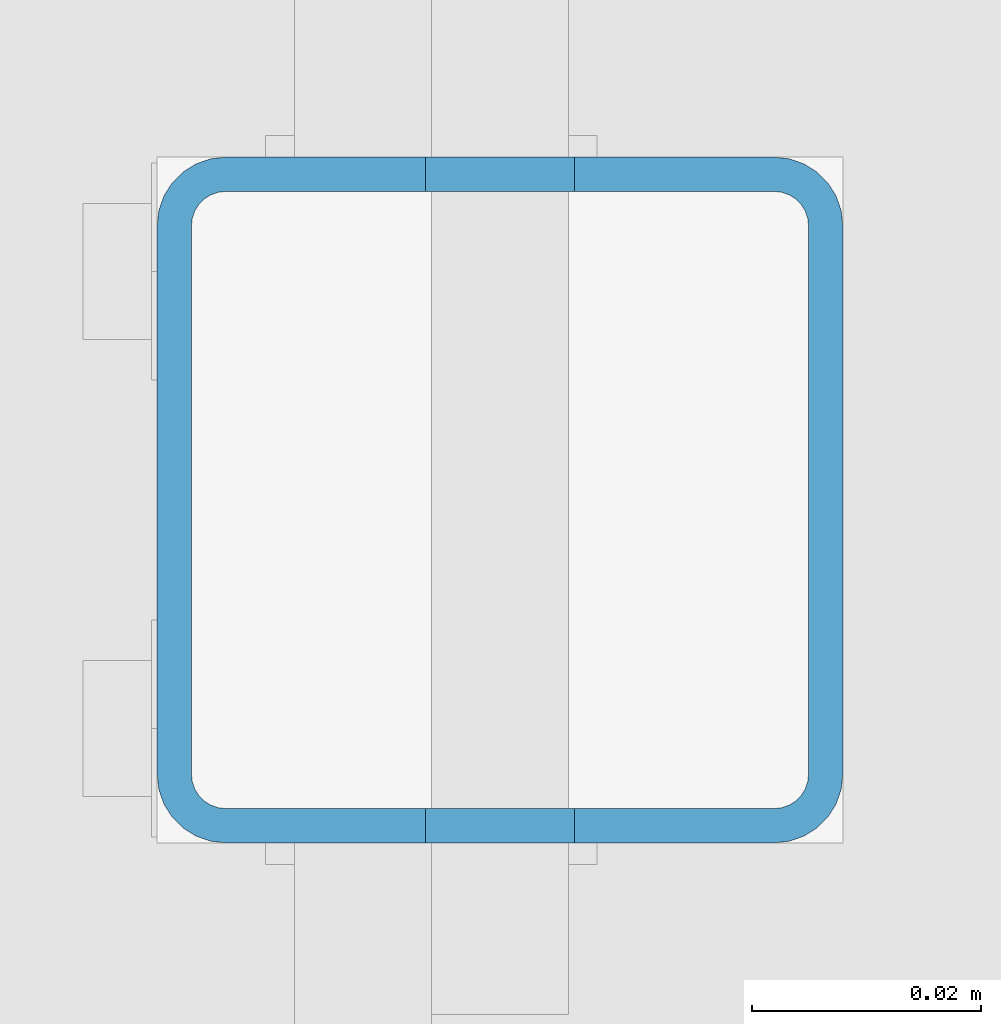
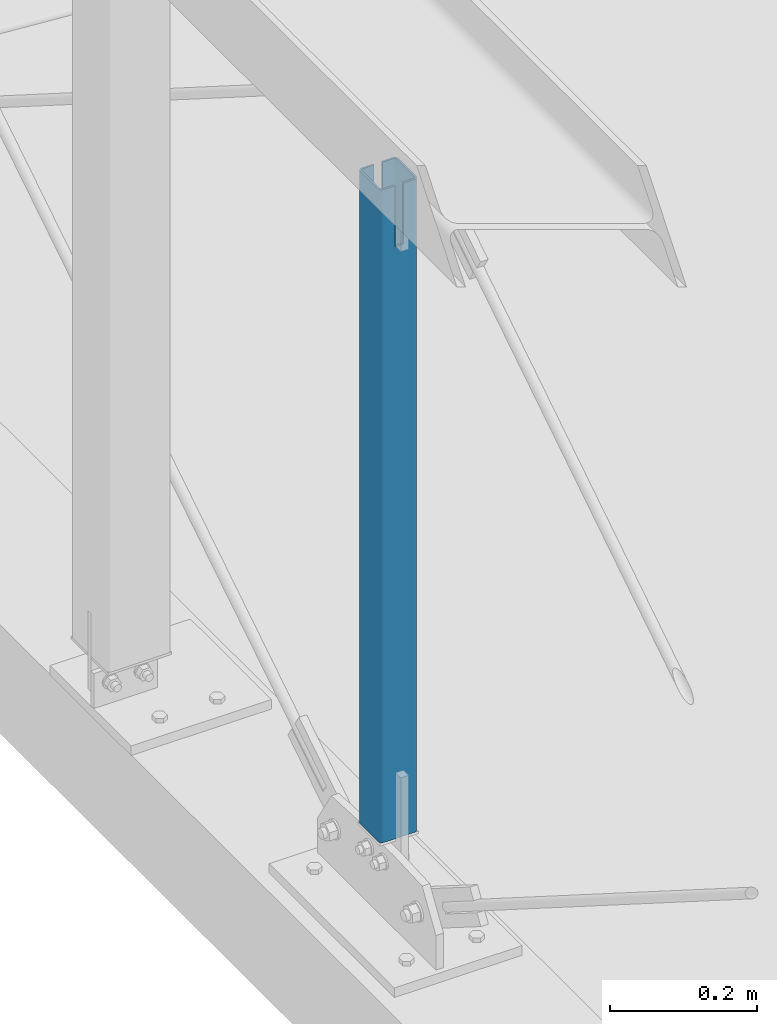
# One storey, part 12 of 271: 1 beam, 1 element without a shape of its own.
"""IFC2X3 building model written with IfcOpenShell, lengths in millimetres."""

from ifc_helpers import new_model, si_unit, frame, origin_with_axes, origin_2d_with_axis, place, context, subcontext, project, spatial, rectangle, hollow_rectangle, extrude, boolean, halfspace, material, type_object, element, aggregate, save


model = new_model("IFC2X3")

# Units and contexts
model_context = context("Model", 3, precision=1e-05, world=origin_with_axes())
body_context = subcontext(model_context, "Body", "Model", "MODEL_VIEW")
ifc_project = project(units=[si_unit("LENGTHUNIT", "METRE", prefix="MILLI"), si_unit("AREAUNIT", "SQUARE_METRE"), si_unit("VOLUMEUNIT", "CUBIC_METRE"), si_unit("MASSUNIT", "GRAM", prefix="KILO"), si_unit("TIMEUNIT", "SECOND"), si_unit("PLANEANGLEUNIT", "RADIAN"), si_unit("SOLIDANGLEUNIT", "STERADIAN"), si_unit("THERMODYNAMICTEMPERATUREUNIT", "DEGREE_CELSIUS"), si_unit("LUMINOUSINTENSITYUNIT", "LUMEN")], contexts=[model_context])

# Site, building, storey
site_placement = place(None, origin_with_axes())
site = spatial("IfcSite", under=ifc_project, at=site_placement, Name="Undefined", CompositionType="ELEMENT")
building_placement = place(site_placement, origin_with_axes())
building = spatial("IfcBuilding", under=site, at=building_placement, Name="Undefined", CompositionType="ELEMENT")
storey_placement = place(building_placement, origin_with_axes())
storey = spatial("IfcBuildingStorey", under=building, at=storey_placement, Name="Undefined", CompositionType="ELEMENT", Elevation=0.0)

# Assembly, beam
assembly_placement = place(storey_placement, origin_with_axes())
assembly = element("IfcElementAssembly", 1, at=assembly_placement, inside=storey, AssemblyPlace="NOTDEFINED", PredefinedType="RIGID_FRAME")
ifc_material = material(Name="STEEL/S355JR")
beam_type = type_object("IfcBeamType", Name="SHS60*3", PredefinedType="NOTDEFINED")
beam_placement = place(assembly_placement, frame((98.9999996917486, 2179.19355050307, 4.34999990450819), z_axis=(0.0, 1.0, 0.0), x_axis=(0.0, 0.0, 1.0)))
beam = element("IfcBeam", 2, at=beam_placement, type_object=beam_type, material=ifc_material, Name="TĘŻNIK", ObjectType="SHS60*3", context=body_context, shape_type="CSG", body=[
    boolean("DIFFERENCE", boolean("DIFFERENCE", boolean("DIFFERENCE", extrude(hollow_rectangle(XDim=60.0, YDim=60.0, WallThickness=3.0, InnerFilletRadius=3.0, OuterFilletRadius=6.0, at=origin_2d_with_axis()), frame((1360.0, 0.0, 0.0), z_axis=(-1.0, 0.0, 1.38777878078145e-17), x_axis=(0.0, -1.0, 0.0)), (0.0, 0.0, 1.0), 1360.0), extrude(rectangle(XDim=13.0, YDim=64.0, at=origin_2d_with_axis()), frame((1111.70000004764, -3.08251401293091e-07, 0.0), z_axis=(1.0, 0.0, 0.0), x_axis=(0.0, 1.0, 0.0)), (0.0, 0.0, 1.0), 103.0)), halfspace(frame((1212.52220463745, -17.9999996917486, 0.0), z_axis=(-1.0, 0.0, 1.38777878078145e-17), x_axis=(0.0, 0.0, -1.0)), True)), halfspace(frame((130.000000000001, -17.9999996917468, 0.0), z_axis=(1.0, 0.0, 0.0), x_axis=(0.0, 0.0, 1.0)), True)),
])
aggregate(assembly, [beam])

save(model, "model.ifc")
